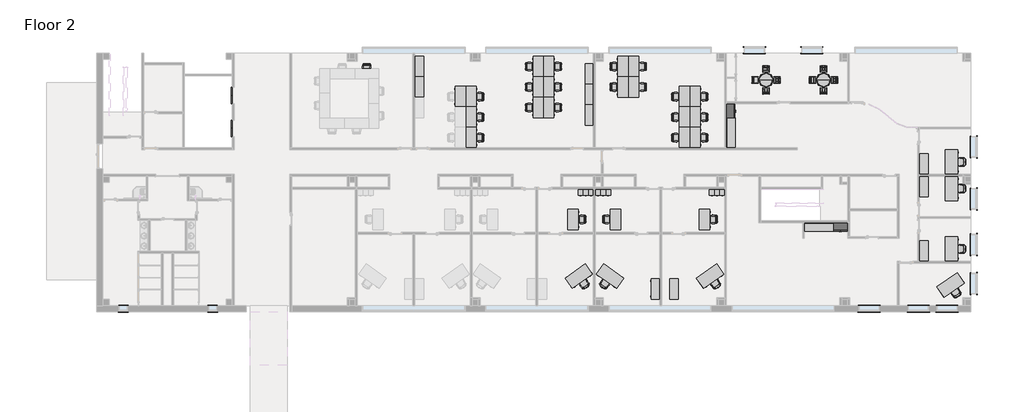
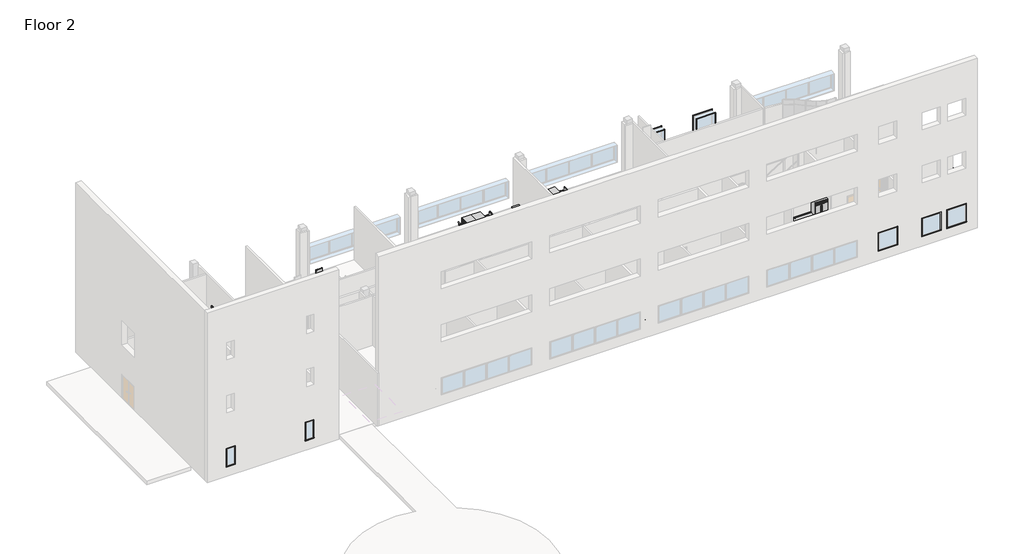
# One storey, part 6 of 6: 95 furniture elements, 26 proxies.
"""IFC4 building model written with IfcOpenShell, lengths in millimetres."""

from ifc_helpers import new_model, si_unit, origin, place, context, project, spatial, transform, mapped, element, save
from components import proxy_ae548678, proxy_0447ab4b, trim_window_exterior_flat_with_sill_05ca63db, trim_window_exterior_flat_with_sill_4912eb0d, trim_window_interior_flat_picture_frame_a1a3bc7c, trim_window_interior_flat_picture_frame_978fd00d, furniture_338da5bd, furniture_552c1472, furniture_48aa8ab9, chair_executive_chair_executive_8d69e98c, chair_executive_chair_executive_a5be4872, chair_stacking_chair_stacking_76f41a28, chair_task_arms_chair_task_arms_fa5a08ef, chair_task_arms_chair_task_arms_3c69ee15, furniture_b725675f, furniture_6bf0da8d, furniture_0f0bb7e9, furniture_a9e97cbc, furniture_f1eb905c, furniture_e30ff25b, furniture_33f25304, furniture_65204735, furniture_77f0a01d

model = new_model("IFC4")

# Units and contexts
model_context = context("Model", 3, world=origin())
ifc_project = project(units=[si_unit("LENGTHUNIT", "METRE", prefix="MILLI")], contexts=[model_context])

# Site, building, storey
site = spatial("IfcSite", under=ifc_project)
building = spatial("IfcBuilding", under=site)
storey = spatial("IfcBuildingStorey", under=building, Name="Floor 2", Elevation=5486.4)

# Proxies
placement = place(None, origin())
proxy_shape = proxy_ae548678(model_context)
element("IfcBuildingElementProxy", 1, Name="Elevator-Center : 72\" x 114\" Hospital min.", ObjectType="Elevator-Center : 72\" x 114\" Hospital min.", at=placement, inside=storey, context=model_context, shape_type="MappedRepresentation", body=[
    mapped(proxy_shape, transform((6707.2192024, 51882.5975333, 5486.4), x_axis=(0.0, 1.0, 0.0), y_axis=(-1.0, 0.0, 0.0), z_axis=(0.0, 0.0, 1.0))),
])
element("IfcBuildingElementProxy", 2, Name="Elevator-Center : 72\" x 114\" Hospital min.", ObjectType="Elevator-Center : 72\" x 114\" Hospital min.", at=placement, inside=storey, context=model_context, shape_type="MappedRepresentation", body=[
    mapped(proxy_shape, transform((6707.2192024, 54320.9975333, 5486.4), x_axis=(0.0, 1.0, 0.0), y_axis=(-1.0, 0.0, 0.0), z_axis=(0.0, 0.0, 1.0))),
])
proxy_2_shape = proxy_0447ab4b(model_context)
element("IfcBuildingElementProxy", 3, Name="Refrigerator-Side-by-Side : 42\" Left Side Freezer", ObjectType="Refrigerator-Side-by-Side : 42\" Left Side Freezer", at=placement, inside=storey, context=model_context, shape_type="MappedRepresentation", body=[
    mapped(proxy_2_shape, transform((51838.2567024, 44868.311889, 5486.4), x_axis=(1.0, 0.0, 0.0), y_axis=(0.0, 1.0, 0.0), z_axis=(0.0, 0.0, 1.0))),
])
element("IfcBuildingElementProxy", 4, Name="Refrigerator-Side-by-Side : 42\" Left Side Freezer", ObjectType="Refrigerator-Side-by-Side : 42\" Left Side Freezer", at=placement, inside=storey, context=model_context, shape_type="MappedRepresentation", body=[
    mapped(proxy_2_shape, transform((43251.4692024, 53086.799389, 5486.4), x_axis=(0.0, 1.0, 0.0), y_axis=(-1.0, 0.0, 0.0), z_axis=(0.0, 0.0, 1.0))),
])
trim_window_exterior_flat_with_sill_shape = trim_window_exterior_flat_with_sill_05ca63db(model_context)
element("IfcBuildingElementProxy", 5, Name="Trim-Window-Exterior-Flat : with Sill", ObjectType="Trim-Window-Exterior-Flat : with Sill", at=placement, inside=storey, context=model_context, shape_type="MappedRepresentation", body=[
    mapped(trim_window_exterior_flat_with_sill_shape, transform((61956.9817024, 46544.711889, 7924.8), x_axis=(0.0, 1.0, 0.0), y_axis=(0.0, 0.0, 1.0), z_axis=(1.0, 0.0, 0.0))),
])
element("IfcBuildingElementProxy", 6, Name="Trim-Window-Exterior-Flat : with Sill", ObjectType="Trim-Window-Exterior-Flat : with Sill", at=placement, inside=storey, context=model_context, shape_type="MappedRepresentation", body=[
    mapped(trim_window_exterior_flat_with_sill_shape, transform((61956.9817024, 43141.111889, 7924.8), x_axis=(0.0, 1.0, 0.0), y_axis=(0.0, 0.0, 1.0), z_axis=(1.0, 0.0, 0.0))),
])
element("IfcBuildingElementProxy", 7, Name="Trim-Window-Exterior-Flat : with Sill", ObjectType="Trim-Window-Exterior-Flat : with Sill", at=placement, inside=storey, context=model_context, shape_type="MappedRepresentation", body=[
    mapped(trim_window_exterior_flat_with_sill_shape, transform((61956.9817024, 40245.511889, 7924.8), x_axis=(0.0, 1.0, 0.0), y_axis=(0.0, 0.0, 1.0), z_axis=(1.0, 0.0, 0.0))),
])
element("IfcBuildingElementProxy", 8, Name="Trim-Window-Exterior-Flat : with Sill", ObjectType="Trim-Window-Exterior-Flat : with Sill", at=placement, inside=storey, context=model_context, shape_type="MappedRepresentation", body=[
    mapped(trim_window_exterior_flat_with_sill_shape, transform((61956.9817024, 50405.511889, 7924.8), x_axis=(0.0, 1.0, 0.0), y_axis=(0.0, 0.0, 1.0), z_axis=(1.0, 0.0, 0.0))),
])
element("IfcBuildingElementProxy", 9, Name="Trim-Window-Exterior-Flat : with Sill", ObjectType="Trim-Window-Exterior-Flat : with Sill", at=placement, inside=storey, context=model_context, shape_type="MappedRepresentation", body=[
    mapped(trim_window_exterior_flat_with_sill_shape, transform((59742.4192024, 38164.299389, 7924.8), x_axis=(1.0, 0.0, 0.0), y_axis=(0.0, 0.0, 1.0), z_axis=(0.0, -1.0, 0.0))),
])
element("IfcBuildingElementProxy", 10, Name="Trim-Window-Exterior-Flat : with Sill", ObjectType="Trim-Window-Exterior-Flat : with Sill", at=placement, inside=storey, context=model_context, shape_type="MappedRepresentation", body=[
    mapped(trim_window_exterior_flat_with_sill_shape, transform((57608.8192024, 38164.299389, 7924.8), x_axis=(1.0, 0.0, 0.0), y_axis=(0.0, 0.0, 1.0), z_axis=(0.0, -1.0, 0.0))),
])
element("IfcBuildingElementProxy", 11, Name="Trim-Window-Exterior-Flat : with Sill", ObjectType="Trim-Window-Exterior-Flat : with Sill", at=placement, inside=storey, context=model_context, shape_type="MappedRepresentation", body=[
    mapped(trim_window_exterior_flat_with_sill_shape, transform((53951.2192024, 38164.299389, 7924.8), x_axis=(1.0, 0.0, 0.0), y_axis=(0.0, 0.0, 1.0), z_axis=(0.0, -1.0, 0.0))),
])
element("IfcBuildingElementProxy", 12, Name="Trim-Window-Exterior-Flat : with Sill", ObjectType="Trim-Window-Exterior-Flat : with Sill", at=placement, inside=storey, context=model_context, shape_type="MappedRepresentation", body=[
    mapped(trim_window_exterior_flat_with_sill_shape, transform((45423.1692024, 57820.724389, 7924.8), x_axis=(-1.0, 0.0, 0.0), y_axis=(0.0, 0.0, 1.0), z_axis=(0.0, 1.0, 0.0))),
])
element("IfcBuildingElementProxy", 13, Name="Trim-Window-Exterior-Flat : with Sill", ObjectType="Trim-Window-Exterior-Flat : with Sill", at=placement, inside=storey, context=model_context, shape_type="MappedRepresentation", body=[
    mapped(trim_window_exterior_flat_with_sill_shape, transform((49690.3692024, 57820.724389, 7924.8), x_axis=(-1.0, 0.0, 0.0), y_axis=(0.0, 0.0, 1.0), z_axis=(0.0, 1.0, 0.0))),
])
trim_window_exterior_flat_with_sill_2_shape = trim_window_exterior_flat_with_sill_4912eb0d(model_context)
element("IfcBuildingElementProxy", 14, Name="Trim-Window-Exterior-Flat : with Sill", ObjectType="Trim-Window-Exterior-Flat : with Sill", at=placement, inside=storey, context=model_context, shape_type="MappedRepresentation", body=[
    mapped(trim_window_exterior_flat_with_sill_2_shape, transform((-1446.1807976, 38164.299389, 7924.8), x_axis=(1.0, 0.0, 0.0), y_axis=(0.0, 0.0, 1.0), z_axis=(0.0, -1.0, 0.0))),
])
element("IfcBuildingElementProxy", 15, Name="Trim-Window-Exterior-Flat : with Sill", ObjectType="Trim-Window-Exterior-Flat : with Sill", at=placement, inside=storey, context=model_context, shape_type="MappedRepresentation", body=[
    mapped(trim_window_exterior_flat_with_sill_2_shape, transform((5189.5692024, 38164.299389, 7924.8), x_axis=(1.0, 0.0, 0.0), y_axis=(0.0, 0.0, 1.0), z_axis=(0.0, -1.0, 0.0))),
])
trim_window_interior_flat_picture_frame_shape = trim_window_interior_flat_picture_frame_a1a3bc7c(model_context)
element("IfcBuildingElementProxy", 16, Name="Trim-Window-Interior-Flat : Picture Frame", ObjectType="Trim-Window-Interior-Flat : Picture Frame", at=placement, inside=storey, context=model_context, shape_type="MappedRepresentation", body=[
    mapped(trim_window_interior_flat_picture_frame_shape, transform((61502.9567024, 46544.711889, 7924.8), x_axis=(0.0, -1.0, 0.0), y_axis=(0.0, 0.0, 1.0), z_axis=(-1.0, 0.0, 0.0))),
])
element("IfcBuildingElementProxy", 17, Name="Trim-Window-Interior-Flat : Picture Frame", ObjectType="Trim-Window-Interior-Flat : Picture Frame", at=placement, inside=storey, context=model_context, shape_type="MappedRepresentation", body=[
    mapped(trim_window_interior_flat_picture_frame_shape, transform((61502.9567024, 43141.111889, 7924.8), x_axis=(0.0, -1.0, 0.0), y_axis=(0.0, 0.0, 1.0), z_axis=(-1.0, 0.0, 0.0))),
])
element("IfcBuildingElementProxy", 18, Name="Trim-Window-Interior-Flat : Picture Frame", ObjectType="Trim-Window-Interior-Flat : Picture Frame", at=placement, inside=storey, context=model_context, shape_type="MappedRepresentation", body=[
    mapped(trim_window_interior_flat_picture_frame_shape, transform((61502.9567024, 40245.511889, 7924.8), x_axis=(0.0, -1.0, 0.0), y_axis=(0.0, 0.0, 1.0), z_axis=(-1.0, 0.0, 0.0))),
])
element("IfcBuildingElementProxy", 19, Name="Trim-Window-Interior-Flat : Picture Frame", ObjectType="Trim-Window-Interior-Flat : Picture Frame", at=placement, inside=storey, context=model_context, shape_type="MappedRepresentation", body=[
    mapped(trim_window_interior_flat_picture_frame_shape, transform((61502.9567024, 50405.511889, 7924.8), x_axis=(0.0, -1.0, 0.0), y_axis=(0.0, 0.0, 1.0), z_axis=(-1.0, 0.0, 0.0))),
])
element("IfcBuildingElementProxy", 20, Name="Trim-Window-Interior-Flat : Picture Frame", ObjectType="Trim-Window-Interior-Flat : Picture Frame", at=placement, inside=storey, context=model_context, shape_type="MappedRepresentation", body=[
    mapped(trim_window_interior_flat_picture_frame_shape, transform((59742.4192024, 38618.324389, 7924.8), x_axis=(-1.0, 0.0, 0.0), y_axis=(0.0, 0.0, 1.0), z_axis=(0.0, 1.0, 0.0))),
])
element("IfcBuildingElementProxy", 21, Name="Trim-Window-Interior-Flat : Picture Frame", ObjectType="Trim-Window-Interior-Flat : Picture Frame", at=placement, inside=storey, context=model_context, shape_type="MappedRepresentation", body=[
    mapped(trim_window_interior_flat_picture_frame_shape, transform((57608.8192024, 38618.324389, 7924.8), x_axis=(-1.0, 0.0, 0.0), y_axis=(0.0, 0.0, 1.0), z_axis=(0.0, 1.0, 0.0))),
])
element("IfcBuildingElementProxy", 22, Name="Trim-Window-Interior-Flat : Picture Frame", ObjectType="Trim-Window-Interior-Flat : Picture Frame", at=placement, inside=storey, context=model_context, shape_type="MappedRepresentation", body=[
    mapped(trim_window_interior_flat_picture_frame_shape, transform((53951.2192024, 38618.324389, 7924.8), x_axis=(-1.0, 0.0, 0.0), y_axis=(0.0, 0.0, 1.0), z_axis=(0.0, 1.0, 0.0))),
])
element("IfcBuildingElementProxy", 23, Name="Trim-Window-Interior-Flat : Picture Frame", ObjectType="Trim-Window-Interior-Flat : Picture Frame", at=placement, inside=storey, context=model_context, shape_type="MappedRepresentation", body=[
    mapped(trim_window_interior_flat_picture_frame_shape, transform((45423.1692024, 57366.699389, 7924.8), x_axis=(1.0, 0.0, 0.0), y_axis=(0.0, 0.0, 1.0), z_axis=(0.0, -1.0, 0.0))),
])
element("IfcBuildingElementProxy", 24, Name="Trim-Window-Interior-Flat : Picture Frame", ObjectType="Trim-Window-Interior-Flat : Picture Frame", at=placement, inside=storey, context=model_context, shape_type="MappedRepresentation", body=[
    mapped(trim_window_interior_flat_picture_frame_shape, transform((49690.3692024, 57366.699389, 7924.8), x_axis=(1.0, 0.0, 0.0), y_axis=(0.0, 0.0, 1.0), z_axis=(0.0, -1.0, 0.0))),
])
trim_window_interior_flat_picture_frame_2_shape = trim_window_interior_flat_picture_frame_978fd00d(model_context)
element("IfcBuildingElementProxy", 25, Name="Trim-Window-Interior-Flat : Picture Frame", ObjectType="Trim-Window-Interior-Flat : Picture Frame", at=placement, inside=storey, context=model_context, shape_type="MappedRepresentation", body=[
    mapped(trim_window_interior_flat_picture_frame_2_shape, transform((-1446.1807976, 38618.324389, 7924.8), x_axis=(-1.0, 0.0, 0.0), y_axis=(0.0, 0.0, 1.0), z_axis=(0.0, 1.0, 0.0))),
])
element("IfcBuildingElementProxy", 26, Name="Trim-Window-Interior-Flat : Picture Frame", ObjectType="Trim-Window-Interior-Flat : Picture Frame", at=placement, inside=storey, context=model_context, shape_type="MappedRepresentation", body=[
    mapped(trim_window_interior_flat_picture_frame_2_shape, transform((5189.5692024, 38618.324389, 7924.8), x_axis=(-1.0, 0.0, 0.0), y_axis=(0.0, 0.0, 1.0), z_axis=(0.0, 1.0, 0.0))),
])

# Furniture
furniture_shape = furniture_338da5bd(model_context)
element("IfcFurniture", 27, ObjectType="Base Cabinet-Double Door & 2 Drawer : 30\"", at=placement, inside=storey, context=model_context, shape_type="MappedRepresentation", body=[
    mapped(furniture_shape, transform((49498.5939974, 44766.711889, 5486.4), x_axis=(1.0, 0.0, 0.0), y_axis=(0.0, 1.0, 0.0), z_axis=(0.0, 0.0, 1.0))),
])
element("IfcFurniture", 28, ObjectType="Base Cabinet-Double Door & 2 Drawer : 30\"", at=placement, inside=storey, context=model_context, shape_type="MappedRepresentation", body=[
    mapped(furniture_shape, transform((50260.5939974, 44766.711889, 5486.4), x_axis=(1.0, 0.0, 0.0), y_axis=(0.0, 1.0, 0.0), z_axis=(0.0, 0.0, 1.0))),
])
element("IfcFurniture", 29, ObjectType="Base Cabinet-Double Door & 2 Drawer : 30\"", at=placement, inside=storey, context=model_context, shape_type="MappedRepresentation", body=[
    mapped(furniture_shape, transform((43353.0692024, 50691.5741841, 5486.4), x_axis=(0.0, 1.0, 0.0), y_axis=(-1.0, 0.0, 0.0), z_axis=(0.0, 0.0, 1.0))),
])
element("IfcFurniture", 30, ObjectType="Base Cabinet-Double Door & 2 Drawer : 30\"", at=placement, inside=storey, context=model_context, shape_type="MappedRepresentation", body=[
    mapped(furniture_shape, transform((43353.0692024, 51453.5741841, 5486.4), x_axis=(0.0, 1.0, 0.0), y_axis=(-1.0, 0.0, 0.0), z_axis=(0.0, 0.0, 1.0))),
])
furniture_2_shape = furniture_552c1472(model_context)
element("IfcFurniture", 31, ObjectType="Cabinet-File 3 Drawer : 15\" x 18\"", at=placement, inside=storey, context=model_context, shape_type="MappedRepresentation", body=[
    mapped(furniture_2_shape, transform((33930.5656494, 47175.7961891, 5486.4), x_axis=(1.0, 0.0, 0.0), y_axis=(0.0, 1.0, 0.0), z_axis=(0.0, 0.0, 1.0))),
])
element("IfcFurniture", 32, ObjectType="Cabinet-File 3 Drawer : 15\" x 18\"", at=placement, inside=storey, context=model_context, shape_type="MappedRepresentation", body=[
    mapped(furniture_2_shape, transform((34311.5656494, 47175.7961891, 5486.4), x_axis=(1.0, 0.0, 0.0), y_axis=(0.0, 1.0, 0.0), z_axis=(0.0, 0.0, 1.0))),
])
element("IfcFurniture", 33, ObjectType="Cabinet-File 3 Drawer : 15\" x 18\"", at=placement, inside=storey, context=model_context, shape_type="MappedRepresentation", body=[
    mapped(furniture_2_shape, transform((34692.5656494, 47175.7961891, 5486.4), x_axis=(1.0, 0.0, 0.0), y_axis=(0.0, 1.0, 0.0), z_axis=(0.0, 0.0, 1.0))),
])
furniture_3_shape = furniture_48aa8ab9(model_context)
element("IfcFurniture", 34, ObjectType="Cabinet-File 3 Drawer : 15\" x 18\"", at=placement, inside=storey, context=model_context, shape_type="MappedRepresentation", body=[
    mapped(furniture_3_shape, transform((33154.0727553, 47175.7961891, 5486.4), x_axis=(-1.0, 0.0, 0.0), y_axis=(0.0, -1.0, 0.0), z_axis=(0.0, 0.0, 1.0))),
])
element("IfcFurniture", 35, ObjectType="Cabinet-File 3 Drawer : 15\" x 18\"", at=placement, inside=storey, context=model_context, shape_type="MappedRepresentation", body=[
    mapped(furniture_3_shape, transform((32773.0727553, 47175.7961891, 5486.4), x_axis=(-1.0, 0.0, 0.0), y_axis=(0.0, -1.0, 0.0), z_axis=(0.0, 0.0, 1.0))),
])
element("IfcFurniture", 36, ObjectType="Cabinet-File 3 Drawer : 15\" x 18\"", at=placement, inside=storey, context=model_context, shape_type="MappedRepresentation", body=[
    mapped(furniture_3_shape, transform((32392.0727553, 47175.7961891, 5486.4), x_axis=(-1.0, 0.0, 0.0), y_axis=(0.0, -1.0, 0.0), z_axis=(0.0, 0.0, 1.0))),
])
element("IfcFurniture", 37, ObjectType="Cabinet-File 3 Drawer : 15\" x 18\"", at=placement, inside=storey, context=model_context, shape_type="MappedRepresentation", body=[
    mapped(furniture_3_shape, transform((42910.8477553, 47175.7961891, 5486.4), x_axis=(-1.0, 0.0, 0.0), y_axis=(0.0, -1.0, 0.0), z_axis=(0.0, 0.0, 1.0))),
])
element("IfcFurniture", 38, ObjectType="Cabinet-File 3 Drawer : 15\" x 18\"", at=placement, inside=storey, context=model_context, shape_type="MappedRepresentation", body=[
    mapped(furniture_3_shape, transform((42529.8477553, 47175.7961891, 5486.4), x_axis=(-1.0, 0.0, 0.0), y_axis=(0.0, -1.0, 0.0), z_axis=(0.0, 0.0, 1.0))),
])
element("IfcFurniture", 39, ObjectType="Cabinet-File 3 Drawer : 15\" x 18\"", at=placement, inside=storey, context=model_context, shape_type="MappedRepresentation", body=[
    mapped(furniture_3_shape, transform((42148.8477553, 47175.7961891, 5486.4), x_axis=(-1.0, 0.0, 0.0), y_axis=(0.0, -1.0, 0.0), z_axis=(0.0, 0.0, 1.0))),
])
chair_executive_chair_executive_shape = chair_executive_chair_executive_8d69e98c(model_context)
element("IfcFurniture", 40, ObjectType="Chair-Executive : Chair-Executive", at=placement, inside=storey, context=model_context, shape_type="MappedRepresentation", body=[
    mapped(chair_executive_chair_executive_shape, transform((34189.995015, 40313.6122918, 5486.4), x_axis=(0.819152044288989, -0.57357643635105, 0.0), y_axis=(0.57357643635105, 0.819152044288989, 0.0), z_axis=(0.0, 0.0, 1.0))),
])
element("IfcFurniture", 41, ObjectType="Chair-Executive : Chair-Executive", at=placement, inside=storey, context=model_context, shape_type="MappedRepresentation", body=[
    mapped(chair_executive_chair_executive_shape, transform((60783.2356072, 47167.3085693, 5486.4), x_axis=(0.0, 1.0, 0.0), y_axis=(-1.0, 0.0, 0.0), z_axis=(0.0, 0.0, 1.0))),
])
chair_executive_chair_executive_2_shape = chair_executive_chair_executive_a5be4872(model_context)
element("IfcFurniture", 42, ObjectType="Chair-Executive : Chair-Executive", at=placement, inside=storey, context=model_context, shape_type="MappedRepresentation", body=[
    mapped(chair_executive_chair_executive_2_shape, transform((32894.6433897, 40313.6122918, 5486.4), x_axis=(-0.819152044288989, -0.57357643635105, 0.0), y_axis=(0.57357643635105, -0.819152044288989, 0.0), z_axis=(0.0, 0.0, 1.0))),
])
element("IfcFurniture", 43, ObjectType="Chair-Executive : Chair-Executive", at=placement, inside=storey, context=model_context, shape_type="MappedRepresentation", body=[
    mapped(chair_executive_chair_executive_2_shape, transform((42651.4183897, 40313.6122918, 5486.4), x_axis=(-0.819152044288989, -0.57357643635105, 0.0), y_axis=(0.57357643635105, -0.819152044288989, 0.0), z_axis=(0.0, 0.0, 1.0))),
])
element("IfcFurniture", 44, ObjectType="Chair-Executive : Chair-Executive", at=placement, inside=storey, context=model_context, shape_type="MappedRepresentation", body=[
    mapped(chair_executive_chair_executive_2_shape, transform((60510.0435605, 39658.0167973, 5486.4), x_axis=(-0.819152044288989, -0.57357643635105, 0.0), y_axis=(0.57357643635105, -0.819152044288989, 0.0), z_axis=(0.0, 0.0, 1.0))),
])
element("IfcFurniture", 45, ObjectType="Chair-Executive : Chair-Executive", at=placement, inside=storey, context=model_context, shape_type="MappedRepresentation", body=[
    mapped(chair_executive_chair_executive_2_shape, transform((60783.2356072, 42969.3652087, 5486.4), x_axis=(0.0, -1.0, 0.0), y_axis=(1.0, 0.0, 0.0), z_axis=(0.0, 0.0, 1.0))),
])
element("IfcFurniture", 46, ObjectType="Chair-Executive : Chair-Executive", at=placement, inside=storey, context=model_context, shape_type="MappedRepresentation", body=[
    mapped(chair_executive_chair_executive_2_shape, transform((60783.2356072, 49427.3152087, 5486.4), x_axis=(0.0, -1.0, 0.0), y_axis=(1.0, 0.0, 0.0), z_axis=(0.0, 0.0, 1.0))),
])
chair_stacking_chair_stacking_shape = chair_stacking_chair_stacking_76f41a28(model_context)
element("IfcFurniture", 47, ObjectType="Chair-Stacking : Chair-Stacking", at=placement, inside=storey, context=model_context, shape_type="MappedRepresentation", body=[
    mapped(chair_stacking_chair_stacking_shape, transform((50739.3683827, 54457.5746587, 5486.4), x_axis=(1.0, 0.0, 0.0), y_axis=(0.0, 1.0, 0.0), z_axis=(0.0, 0.0, 1.0))),
])
element("IfcFurniture", 48, ObjectType="Chair-Stacking : Chair-Stacking", at=placement, inside=storey, context=model_context, shape_type="MappedRepresentation", body=[
    mapped(chair_stacking_chair_stacking_shape, transform((51482.0706259, 55558.3752626, 5486.4), x_axis=(0.0, 1.0, 0.0), y_axis=(-1.0, 0.0, 0.0), z_axis=(0.0, 0.0, 1.0))),
])
element("IfcFurniture", 49, ObjectType="Chair-Stacking : Chair-Stacking", at=placement, inside=storey, context=model_context, shape_type="MappedRepresentation", body=[
    mapped(chair_stacking_chair_stacking_shape, transform((50381.270022, 56301.0775058, 5486.4), x_axis=(-1.0, 0.0, 0.0), y_axis=(0.0, -1.0, 0.0), z_axis=(0.0, 0.0, 1.0))),
])
element("IfcFurniture", 50, ObjectType="Chair-Stacking : Chair-Stacking", at=placement, inside=storey, context=model_context, shape_type="MappedRepresentation", body=[
    mapped(chair_stacking_chair_stacking_shape, transform((49638.5677788, 55200.276902, 5486.4), x_axis=(0.0, -1.0, 0.0), y_axis=(1.0, 0.0, 0.0), z_axis=(0.0, 0.0, 1.0))),
])
element("IfcFurniture", 51, ObjectType="Chair-Stacking : Chair-Stacking", at=placement, inside=storey, context=model_context, shape_type="MappedRepresentation", body=[
    mapped(chair_stacking_chair_stacking_shape, transform((46472.1683827, 54457.5746587, 5486.4), x_axis=(1.0, 0.0, 0.0), y_axis=(0.0, 1.0, 0.0), z_axis=(0.0, 0.0, 1.0))),
])
element("IfcFurniture", 52, ObjectType="Chair-Stacking : Chair-Stacking", at=placement, inside=storey, context=model_context, shape_type="MappedRepresentation", body=[
    mapped(chair_stacking_chair_stacking_shape, transform((47214.8706259, 55558.3752626, 5486.4), x_axis=(0.0, 1.0, 0.0), y_axis=(-1.0, 0.0, 0.0), z_axis=(0.0, 0.0, 1.0))),
])
element("IfcFurniture", 53, ObjectType="Chair-Stacking : Chair-Stacking", at=placement, inside=storey, context=model_context, shape_type="MappedRepresentation", body=[
    mapped(chair_stacking_chair_stacking_shape, transform((46114.070022, 56301.0775058, 5486.4), x_axis=(-1.0, 0.0, 0.0), y_axis=(0.0, -1.0, 0.0), z_axis=(0.0, 0.0, 1.0))),
])
element("IfcFurniture", 54, ObjectType="Chair-Stacking : Chair-Stacking", at=placement, inside=storey, context=model_context, shape_type="MappedRepresentation", body=[
    mapped(chair_stacking_chair_stacking_shape, transform((45371.3677788, 55200.276902, 5486.4), x_axis=(0.0, -1.0, 0.0), y_axis=(1.0, 0.0, 0.0), z_axis=(0.0, 0.0, 1.0))),
])
chair_task_arms_chair_task_arms_shape = chair_task_arms_chair_task_arms_fa5a08ef(model_context)
element("IfcFurniture", 55, ObjectType="Chair-Task Arms : Chair-Task Arms", at=placement, inside=storey, context=model_context, shape_type="MappedRepresentation", body=[
    mapped(chair_task_arms_chair_task_arms_shape, transform((34425.0733007, 45161.7027087, 5486.4), x_axis=(0.0, -1.0, 0.0), y_axis=(1.0, 0.0, 0.0), z_axis=(0.0, 0.0, 1.0))),
])
element("IfcFurniture", 56, ObjectType="Chair-Task Arms : Chair-Task Arms", at=placement, inside=storey, context=model_context, shape_type="MappedRepresentation", body=[
    mapped(chair_task_arms_chair_task_arms_shape, transform((16765.9004892, 56317.2577906, 5486.4), x_axis=(-1.0, 0.0, 0.0), y_axis=(0.0, -1.0, 0.0), z_axis=(0.0, 0.0, 1.0))),
])
element("IfcFurniture", 57, ObjectType="Chair-Task Arms : Chair-Task Arms", at=placement, inside=storey, context=model_context, shape_type="MappedRepresentation", body=[
    mapped(chair_task_arms_chair_task_arms_shape, transform((41712.8009489, 50950.3210693, 5486.4), x_axis=(0.0, 1.0, 0.0), y_axis=(-1.0, 0.0, 0.0), z_axis=(0.0, 0.0, 1.0))),
])
element("IfcFurniture", 58, ObjectType="Chair-Task Arms : Chair-Task Arms", at=placement, inside=storey, context=model_context, shape_type="MappedRepresentation", body=[
    mapped(chair_task_arms_chair_task_arms_shape, transform((37134.7797162, 56233.5210693, 5486.4), x_axis=(0.0, 1.0, 0.0), y_axis=(-1.0, 0.0, 0.0), z_axis=(0.0, 0.0, 1.0))),
])
element("IfcFurniture", 59, ObjectType="Chair-Task Arms : Chair-Task Arms", at=placement, inside=storey, context=model_context, shape_type="MappedRepresentation", body=[
    mapped(chair_task_arms_chair_task_arms_shape, transform((37134.7797162, 54709.5210693, 5486.4), x_axis=(0.0, 1.0, 0.0), y_axis=(-1.0, 0.0, 0.0), z_axis=(0.0, 0.0, 1.0))),
])
element("IfcFurniture", 60, ObjectType="Chair-Task Arms : Chair-Task Arms", at=placement, inside=storey, context=model_context, shape_type="MappedRepresentation", body=[
    mapped(chair_task_arms_chair_task_arms_shape, transform((41712.8009489, 52474.3210693, 5486.4), x_axis=(0.0, 1.0, 0.0), y_axis=(-1.0, 0.0, 0.0), z_axis=(0.0, 0.0, 1.0))),
])
element("IfcFurniture", 61, ObjectType="Chair-Task Arms : Chair-Task Arms", at=placement, inside=storey, context=model_context, shape_type="MappedRepresentation", body=[
    mapped(chair_task_arms_chair_task_arms_shape, transform((41712.8009489, 53998.3210693, 5486.4), x_axis=(0.0, 1.0, 0.0), y_axis=(-1.0, 0.0, 0.0), z_axis=(0.0, 0.0, 1.0))),
])
element("IfcFurniture", 62, ObjectType="Chair-Task Arms : Chair-Task Arms", at=placement, inside=storey, context=model_context, shape_type="MappedRepresentation", body=[
    mapped(chair_task_arms_chair_task_arms_shape, transform((25071.315104, 50950.3210693, 5486.4), x_axis=(0.0, 1.0, 0.0), y_axis=(-1.0, 0.0, 0.0), z_axis=(0.0, 0.0, 1.0))),
])
element("IfcFurniture", 63, ObjectType="Chair-Task Arms : Chair-Task Arms", at=placement, inside=storey, context=model_context, shape_type="MappedRepresentation", body=[
    mapped(chair_task_arms_chair_task_arms_shape, transform((25071.315104, 52474.3210693, 5486.4), x_axis=(0.0, 1.0, 0.0), y_axis=(-1.0, 0.0, 0.0), z_axis=(0.0, 0.0, 1.0))),
])
element("IfcFurniture", 64, ObjectType="Chair-Task Arms : Chair-Task Arms", at=placement, inside=storey, context=model_context, shape_type="MappedRepresentation", body=[
    mapped(chair_task_arms_chair_task_arms_shape, transform((25071.315104, 53998.3210693, 5486.4), x_axis=(0.0, 1.0, 0.0), y_axis=(-1.0, 0.0, 0.0), z_axis=(0.0, 0.0, 1.0))),
])
element("IfcFurniture", 65, ObjectType="Chair-Task Arms : Chair-Task Arms", at=placement, inside=storey, context=model_context, shape_type="MappedRepresentation", body=[
    mapped(chair_task_arms_chair_task_arms_shape, transform((30844.5832347, 53185.5210693, 5486.4), x_axis=(0.0, 1.0, 0.0), y_axis=(-1.0, 0.0, 0.0), z_axis=(0.0, 0.0, 1.0))),
])
element("IfcFurniture", 66, ObjectType="Chair-Task Arms : Chair-Task Arms", at=placement, inside=storey, context=model_context, shape_type="MappedRepresentation", body=[
    mapped(chair_task_arms_chair_task_arms_shape, transform((30844.5832347, 54709.5210693, 5486.4), x_axis=(0.0, 1.0, 0.0), y_axis=(-1.0, 0.0, 0.0), z_axis=(0.0, 0.0, 1.0))),
])
element("IfcFurniture", 67, ObjectType="Chair-Task Arms : Chair-Task Arms", at=placement, inside=storey, context=model_context, shape_type="MappedRepresentation", body=[
    mapped(chair_task_arms_chair_task_arms_shape, transform((30844.5832347, 56233.5210693, 5486.4), x_axis=(0.0, 1.0, 0.0), y_axis=(-1.0, 0.0, 0.0), z_axis=(0.0, 0.0, 1.0))),
])
chair_task_arms_chair_task_arms_2_shape = chair_task_arms_chair_task_arms_3c69ee15(model_context)
element("IfcFurniture", 68, ObjectType="Chair-Task Arms : Chair-Task Arms", at=placement, inside=storey, context=model_context, shape_type="MappedRepresentation", body=[
    mapped(chair_task_arms_chair_task_arms_2_shape, transform((32659.565104, 45161.7027087, 5486.4), x_axis=(0.0, -1.0, 0.0), y_axis=(1.0, 0.0, 0.0), z_axis=(0.0, 0.0, 1.0))),
])
element("IfcFurniture", 69, ObjectType="Chair-Task Arms : Chair-Task Arms", at=placement, inside=storey, context=model_context, shape_type="MappedRepresentation", body=[
    mapped(chair_task_arms_chair_task_arms_2_shape, transform((42416.340104, 45161.7027087, 5486.4), x_axis=(0.0, -1.0, 0.0), y_axis=(1.0, 0.0, 0.0), z_axis=(0.0, 0.0, 1.0))),
])
element("IfcFurniture", 70, ObjectType="Chair-Task Arms : Chair-Task Arms", at=placement, inside=storey, context=model_context, shape_type="MappedRepresentation", body=[
    mapped(chair_task_arms_chair_task_arms_2_shape, transform((39541.3091456, 50950.3210693, 5486.4), x_axis=(0.0, 1.0, 0.0), y_axis=(-1.0, 0.0, 0.0), z_axis=(0.0, 0.0, 1.0))),
])
element("IfcFurniture", 71, ObjectType="Chair-Task Arms : Chair-Task Arms", at=placement, inside=storey, context=model_context, shape_type="MappedRepresentation", body=[
    mapped(chair_task_arms_chair_task_arms_2_shape, transform((34963.2879129, 56233.5210693, 5486.4), x_axis=(0.0, 1.0, 0.0), y_axis=(-1.0, 0.0, 0.0), z_axis=(0.0, 0.0, 1.0))),
])
element("IfcFurniture", 72, ObjectType="Chair-Task Arms : Chair-Task Arms", at=placement, inside=storey, context=model_context, shape_type="MappedRepresentation", body=[
    mapped(chair_task_arms_chair_task_arms_2_shape, transform((34963.2879129, 54709.5210693, 5486.4), x_axis=(0.0, 1.0, 0.0), y_axis=(-1.0, 0.0, 0.0), z_axis=(0.0, 0.0, 1.0))),
])
element("IfcFurniture", 73, ObjectType="Chair-Task Arms : Chair-Task Arms", at=placement, inside=storey, context=model_context, shape_type="MappedRepresentation", body=[
    mapped(chair_task_arms_chair_task_arms_2_shape, transform((39541.3091456, 52474.3210693, 5486.4), x_axis=(0.0, 1.0, 0.0), y_axis=(-1.0, 0.0, 0.0), z_axis=(0.0, 0.0, 1.0))),
])
element("IfcFurniture", 74, ObjectType="Chair-Task Arms : Chair-Task Arms", at=placement, inside=storey, context=model_context, shape_type="MappedRepresentation", body=[
    mapped(chair_task_arms_chair_task_arms_2_shape, transform((39541.3091456, 53998.3210693, 5486.4), x_axis=(0.0, 1.0, 0.0), y_axis=(-1.0, 0.0, 0.0), z_axis=(0.0, 0.0, 1.0))),
])
element("IfcFurniture", 75, ObjectType="Chair-Task Arms : Chair-Task Arms", at=placement, inside=storey, context=model_context, shape_type="MappedRepresentation", body=[
    mapped(chair_task_arms_chair_task_arms_2_shape, transform((28673.0914314, 53185.5210693, 5486.4), x_axis=(0.0, 1.0, 0.0), y_axis=(-1.0, 0.0, 0.0), z_axis=(0.0, 0.0, 1.0))),
])
element("IfcFurniture", 76, ObjectType="Chair-Task Arms : Chair-Task Arms", at=placement, inside=storey, context=model_context, shape_type="MappedRepresentation", body=[
    mapped(chair_task_arms_chair_task_arms_2_shape, transform((28673.0914314, 54709.5210693, 5486.4), x_axis=(0.0, 1.0, 0.0), y_axis=(-1.0, 0.0, 0.0), z_axis=(0.0, 0.0, 1.0))),
])
element("IfcFurniture", 77, ObjectType="Chair-Task Arms : Chair-Task Arms", at=placement, inside=storey, context=model_context, shape_type="MappedRepresentation", body=[
    mapped(chair_task_arms_chair_task_arms_2_shape, transform((28673.0914314, 56233.5210693, 5486.4), x_axis=(0.0, 1.0, 0.0), y_axis=(-1.0, 0.0, 0.0), z_axis=(0.0, 0.0, 1.0))),
])
furniture_4_shape = furniture_b725675f(model_context)
element("IfcFurniture", 78, ObjectType="Counter Top : 24\" Depth", at=placement, inside=storey, context=model_context, shape_type="MappedRepresentation", body=[
    mapped(furniture_4_shape, transform((50336.7939974, 44766.711889, 5486.4), x_axis=(1.0, 0.0, 0.0), y_axis=(0.0, 1.0, 0.0), z_axis=(0.0, 0.0, 1.0))),
])
furniture_5_shape = furniture_6bf0da8d(model_context)
element("IfcFurniture", 79, ObjectType="Counter Top : 24\" Depth", at=placement, inside=storey, context=model_context, shape_type="MappedRepresentation", body=[
    mapped(furniture_5_shape, transform((43353.0692024, 51529.7741841, 5486.4), x_axis=(0.0, 1.0, 0.0), y_axis=(-1.0, 0.0, 0.0), z_axis=(0.0, 0.0, 1.0))),
])
furniture_6_shape = furniture_0f0bb7e9(model_context)
element("IfcFurniture", 80, ObjectType="Credenza : 60\" x 24\"", at=placement, inside=storey, context=model_context, shape_type="MappedRepresentation", body=[
    mapped(furniture_6_shape, transform((39442.8745302, 39804.9676267, 5486.4), x_axis=(0.0, 1.0, 0.0), y_axis=(-1.0, 0.0, 0.0), z_axis=(0.0, 0.0, 1.0))),
])
element("IfcFurniture", 81, ObjectType="Credenza : 60\" x 24\"", at=placement, inside=storey, context=model_context, shape_type="MappedRepresentation", body=[
    mapped(furniture_6_shape, transform((58024.5620302, 42616.4301267, 5486.4), x_axis=(0.0, 1.0, 0.0), y_axis=(-1.0, 0.0, 0.0), z_axis=(0.0, 0.0, 1.0))),
])
element("IfcFurniture", 82, ObjectType="Credenza : 60\" x 24\"", at=placement, inside=storey, context=model_context, shape_type="MappedRepresentation", body=[
    mapped(furniture_6_shape, transform((58024.5620302, 49074.3801267, 5486.4), x_axis=(0.0, 1.0, 0.0), y_axis=(-1.0, 0.0, 0.0), z_axis=(0.0, 0.0, 1.0))),
])
furniture_7_shape = furniture_a9e97cbc(model_context)
element("IfcFurniture", 83, ObjectType="Credenza : 60\" x 24\"", at=placement, inside=storey, context=model_context, shape_type="MappedRepresentation", body=[
    mapped(furniture_7_shape, transform((38074.8138745, 39804.9676267, 5486.4), x_axis=(0.0, 1.0, 0.0), y_axis=(-1.0, 0.0, 0.0), z_axis=(0.0, 0.0, 1.0))),
])
element("IfcFurniture", 84, ObjectType="Credenza : 60\" x 24\"", at=placement, inside=storey, context=model_context, shape_type="MappedRepresentation", body=[
    mapped(furniture_7_shape, transform((58024.5620302, 47520.2436513, 5486.4), x_axis=(0.0, -1.0, 0.0), y_axis=(1.0, 0.0, 0.0), z_axis=(0.0, 0.0, 1.0))),
])
element("IfcFurniture", 85, ObjectType="Credenza : 60\" x 24\"", at=placement, inside=storey, context=model_context, shape_type="MappedRepresentation", body=[
    mapped(furniture_7_shape, transform((33201.1888745, 52709.7551267, 5486.4), x_axis=(0.0, 1.0, 0.0), y_axis=(-1.0, 0.0, 0.0), z_axis=(0.0, 0.0, 1.0))),
])
element("IfcFurniture", 86, ObjectType="Credenza : 60\" x 24\"", at=placement, inside=storey, context=model_context, shape_type="MappedRepresentation", body=[
    mapped(furniture_7_shape, transform((33201.1888745, 54233.7551267, 5486.4), x_axis=(0.0, 1.0, 0.0), y_axis=(-1.0, 0.0, 0.0), z_axis=(0.0, 0.0, 1.0))),
])
element("IfcFurniture", 87, ObjectType="Credenza : 60\" x 24\"", at=placement, inside=storey, context=model_context, shape_type="MappedRepresentation", body=[
    mapped(furniture_7_shape, transform((33201.1888745, 55757.7551267, 5486.4), x_axis=(0.0, 1.0, 0.0), y_axis=(-1.0, 0.0, 0.0), z_axis=(0.0, 0.0, 1.0))),
])
element("IfcFurniture", 88, ObjectType="Credenza : 60\" x 24\"", at=placement, inside=storey, context=model_context, shape_type="MappedRepresentation", body=[
    mapped(furniture_7_shape, transform((20542.0995302, 56434.0561513, 5486.4), x_axis=(0.0, -1.0, 0.0), y_axis=(1.0, 0.0, 0.0), z_axis=(0.0, 0.0, 1.0))),
])
element("IfcFurniture", 89, ObjectType="Credenza : 60\" x 24\"", at=placement, inside=storey, context=model_context, shape_type="MappedRepresentation", body=[
    mapped(furniture_7_shape, transform((20542.0995302, 54910.0561513, 5486.4), x_axis=(0.0, -1.0, 0.0), y_axis=(1.0, 0.0, 0.0), z_axis=(0.0, 0.0, 1.0))),
])
furniture_8_shape = furniture_f1eb905c(model_context)
element("IfcFurniture", 90, ObjectType="Desk : 60\" x 30\"", at=placement, inside=storey, context=model_context, shape_type="MappedRepresentation", body=[
    mapped(furniture_8_shape, transform((34748.8192024, 45782.711889, 5486.4), x_axis=(0.0, -1.0, 0.0), y_axis=(1.0, 0.0, 0.0), z_axis=(0.0, 0.0, 1.0))),
])
element("IfcFurniture", 91, ObjectType="Desk : 60\" x 30\"", at=placement, inside=storey, context=model_context, shape_type="MappedRepresentation", body=[
    mapped(furniture_8_shape, transform((41389.0550473, 50329.311889, 5486.4), x_axis=(0.0, 1.0, 0.0), y_axis=(-1.0, 0.0, 0.0), z_axis=(0.0, 0.0, 1.0))),
])
element("IfcFurniture", 92, ObjectType="Desk : 60\" x 30\"", at=placement, inside=storey, context=model_context, shape_type="MappedRepresentation", body=[
    mapped(furniture_8_shape, transform((36811.0338145, 55612.511889, 5486.4), x_axis=(0.0, 1.0, 0.0), y_axis=(-1.0, 0.0, 0.0), z_axis=(0.0, 0.0, 1.0))),
])
element("IfcFurniture", 93, ObjectType="Desk : 60\" x 30\"", at=placement, inside=storey, context=model_context, shape_type="MappedRepresentation", body=[
    mapped(furniture_8_shape, transform((36811.0338145, 54088.511889, 5486.4), x_axis=(0.0, 1.0, 0.0), y_axis=(-1.0, 0.0, 0.0), z_axis=(0.0, 0.0, 1.0))),
])
element("IfcFurniture", 94, ObjectType="Desk : 60\" x 30\"", at=placement, inside=storey, context=model_context, shape_type="MappedRepresentation", body=[
    mapped(furniture_8_shape, transform((41389.0550473, 51853.311889, 5486.4), x_axis=(0.0, 1.0, 0.0), y_axis=(-1.0, 0.0, 0.0), z_axis=(0.0, 0.0, 1.0))),
])
element("IfcFurniture", 95, ObjectType="Desk : 60\" x 30\"", at=placement, inside=storey, context=model_context, shape_type="MappedRepresentation", body=[
    mapped(furniture_8_shape, transform((41389.0550473, 53377.311889, 5486.4), x_axis=(0.0, 1.0, 0.0), y_axis=(-1.0, 0.0, 0.0), z_axis=(0.0, 0.0, 1.0))),
])
element("IfcFurniture", 96, ObjectType="Desk : 60\" x 30\"", at=placement, inside=storey, context=model_context, shape_type="MappedRepresentation", body=[
    mapped(furniture_8_shape, transform((24747.5692024, 50329.311889, 5486.4), x_axis=(0.0, 1.0, 0.0), y_axis=(-1.0, 0.0, 0.0), z_axis=(0.0, 0.0, 1.0))),
])
element("IfcFurniture", 97, ObjectType="Desk : 60\" x 30\"", at=placement, inside=storey, context=model_context, shape_type="MappedRepresentation", body=[
    mapped(furniture_8_shape, transform((24747.5692024, 51853.311889, 5486.4), x_axis=(0.0, 1.0, 0.0), y_axis=(-1.0, 0.0, 0.0), z_axis=(0.0, 0.0, 1.0))),
])
element("IfcFurniture", 98, ObjectType="Desk : 60\" x 30\"", at=placement, inside=storey, context=model_context, shape_type="MappedRepresentation", body=[
    mapped(furniture_8_shape, transform((24747.5692024, 53377.311889, 5486.4), x_axis=(0.0, 1.0, 0.0), y_axis=(-1.0, 0.0, 0.0), z_axis=(0.0, 0.0, 1.0))),
])
element("IfcFurniture", 99, ObjectType="Desk : 60\" x 30\"", at=placement, inside=storey, context=model_context, shape_type="MappedRepresentation", body=[
    mapped(furniture_8_shape, transform((30520.8373331, 52564.511889, 5486.4), x_axis=(0.0, 1.0, 0.0), y_axis=(-1.0, 0.0, 0.0), z_axis=(0.0, 0.0, 1.0))),
])
element("IfcFurniture", 100, ObjectType="Desk : 60\" x 30\"", at=placement, inside=storey, context=model_context, shape_type="MappedRepresentation", body=[
    mapped(furniture_8_shape, transform((30520.8373331, 54088.511889, 5486.4), x_axis=(0.0, 1.0, 0.0), y_axis=(-1.0, 0.0, 0.0), z_axis=(0.0, 0.0, 1.0))),
])
element("IfcFurniture", 101, ObjectType="Desk : 60\" x 30\"", at=placement, inside=storey, context=model_context, shape_type="MappedRepresentation", body=[
    mapped(furniture_8_shape, transform((30520.8373331, 55612.511889, 5486.4), x_axis=(0.0, 1.0, 0.0), y_axis=(-1.0, 0.0, 0.0), z_axis=(0.0, 0.0, 1.0))),
])
furniture_9_shape = furniture_e30ff25b(model_context)
element("IfcFurniture", 102, ObjectType="Desk : 60\" x 30\"", at=placement, inside=storey, context=model_context, shape_type="MappedRepresentation", body=[
    mapped(furniture_9_shape, transform((32335.8192024, 45782.711889, 5486.4), x_axis=(0.0, -1.0, 0.0), y_axis=(1.0, 0.0, 0.0), z_axis=(0.0, 0.0, 1.0))),
])
element("IfcFurniture", 103, ObjectType="Desk : 60\" x 30\"", at=placement, inside=storey, context=model_context, shape_type="MappedRepresentation", body=[
    mapped(furniture_9_shape, transform((42092.5942024, 45782.711889, 5486.4), x_axis=(0.0, -1.0, 0.0), y_axis=(1.0, 0.0, 0.0), z_axis=(0.0, 0.0, 1.0))),
])
element("IfcFurniture", 104, ObjectType="Desk : 60\" x 30\"", at=placement, inside=storey, context=model_context, shape_type="MappedRepresentation", body=[
    mapped(furniture_9_shape, transform((39865.0550473, 50329.311889, 5486.4), x_axis=(0.0, 1.0, 0.0), y_axis=(-1.0, 0.0, 0.0), z_axis=(0.0, 0.0, 1.0))),
])
element("IfcFurniture", 105, ObjectType="Desk : 60\" x 30\"", at=placement, inside=storey, context=model_context, shape_type="MappedRepresentation", body=[
    mapped(furniture_9_shape, transform((35287.0338145, 55612.511889, 5486.4), x_axis=(0.0, 1.0, 0.0), y_axis=(-1.0, 0.0, 0.0), z_axis=(0.0, 0.0, 1.0))),
])
element("IfcFurniture", 106, ObjectType="Desk : 60\" x 30\"", at=placement, inside=storey, context=model_context, shape_type="MappedRepresentation", body=[
    mapped(furniture_9_shape, transform((35287.0338145, 54088.511889, 5486.4), x_axis=(0.0, 1.0, 0.0), y_axis=(-1.0, 0.0, 0.0), z_axis=(0.0, 0.0, 1.0))),
])
element("IfcFurniture", 107, ObjectType="Desk : 60\" x 30\"", at=placement, inside=storey, context=model_context, shape_type="MappedRepresentation", body=[
    mapped(furniture_9_shape, transform((39865.0550473, 51853.311889, 5486.4), x_axis=(0.0, 1.0, 0.0), y_axis=(-1.0, 0.0, 0.0), z_axis=(0.0, 0.0, 1.0))),
])
element("IfcFurniture", 108, ObjectType="Desk : 60\" x 30\"", at=placement, inside=storey, context=model_context, shape_type="MappedRepresentation", body=[
    mapped(furniture_9_shape, transform((39865.0550473, 53377.311889, 5486.4), x_axis=(0.0, 1.0, 0.0), y_axis=(-1.0, 0.0, 0.0), z_axis=(0.0, 0.0, 1.0))),
])
element("IfcFurniture", 109, ObjectType="Desk : 60\" x 30\"", at=placement, inside=storey, context=model_context, shape_type="MappedRepresentation", body=[
    mapped(furniture_9_shape, transform((23223.5692024, 53377.311889, 5486.4), x_axis=(0.0, 1.0, 0.0), y_axis=(-1.0, 0.0, 0.0), z_axis=(0.0, 0.0, 1.0))),
])
element("IfcFurniture", 110, ObjectType="Desk : 60\" x 30\"", at=placement, inside=storey, context=model_context, shape_type="MappedRepresentation", body=[
    mapped(furniture_9_shape, transform((28996.8373331, 52564.511889, 5486.4), x_axis=(0.0, 1.0, 0.0), y_axis=(-1.0, 0.0, 0.0), z_axis=(0.0, 0.0, 1.0))),
])
element("IfcFurniture", 111, ObjectType="Desk : 60\" x 30\"", at=placement, inside=storey, context=model_context, shape_type="MappedRepresentation", body=[
    mapped(furniture_9_shape, transform((28996.8373331, 54088.511889, 5486.4), x_axis=(0.0, 1.0, 0.0), y_axis=(-1.0, 0.0, 0.0), z_axis=(0.0, 0.0, 1.0))),
])
element("IfcFurniture", 112, ObjectType="Desk : 60\" x 30\"", at=placement, inside=storey, context=model_context, shape_type="MappedRepresentation", body=[
    mapped(furniture_9_shape, transform((28996.8373331, 55612.511889, 5486.4), x_axis=(0.0, 1.0, 0.0), y_axis=(-1.0, 0.0, 0.0), z_axis=(0.0, 0.0, 1.0))),
])
furniture_10_shape = furniture_33f25304(model_context)
element("IfcFurniture", 113, ObjectType="Desk : 72\" x 36\"", at=placement, inside=storey, context=model_context, shape_type="MappedRepresentation", body=[
    mapped(furniture_10_shape, transform((33866.9870959, 40935.0056416, 5486.4), x_axis=(0.8191520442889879, -0.5735764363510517, 0.0), y_axis=(0.5735764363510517, 0.8191520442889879, 0.0), z_axis=(0.0, 0.0, 1.0))),
])
element("IfcFurniture", 114, ObjectType="Desk : 72\" x 36\"", at=placement, inside=storey, context=model_context, shape_type="MappedRepresentation", body=[
    mapped(furniture_10_shape, transform((60459.4897055, 46546.299389, 5486.4), x_axis=(0.0, 1.0, 0.0), y_axis=(-1.0, 0.0, 0.0), z_axis=(0.0, 0.0, 1.0))),
])
furniture_11_shape = furniture_65204735(model_context)
element("IfcFurniture", 115, ObjectType="Desk : 72\" x 36\"", at=placement, inside=storey, context=model_context, shape_type="MappedRepresentation", body=[
    mapped(furniture_11_shape, transform((33217.6513088, 40935.0056416, 5486.4), x_axis=(-0.8191520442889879, -0.5735764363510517, 0.0), y_axis=(0.5735764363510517, -0.8191520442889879, 0.0), z_axis=(0.0, 0.0, 1.0))),
])
element("IfcFurniture", 116, ObjectType="Desk : 72\" x 36\"", at=placement, inside=storey, context=model_context, shape_type="MappedRepresentation", body=[
    mapped(furniture_11_shape, transform((42974.4263088, 40935.0056416, 5486.4), x_axis=(-0.8191520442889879, -0.5735764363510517, 0.0), y_axis=(0.5735764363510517, -0.8191520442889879, 0.0), z_axis=(0.0, 0.0, 1.0))),
])
element("IfcFurniture", 117, ObjectType="Desk : 72\" x 36\"", at=placement, inside=storey, context=model_context, shape_type="MappedRepresentation", body=[
    mapped(furniture_11_shape, transform((60833.0514796, 40279.410147, 5486.4), x_axis=(-0.8191520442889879, -0.5735764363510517, 0.0), y_axis=(0.5735764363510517, -0.8191520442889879, 0.0), z_axis=(0.0, 0.0, 1.0))),
])
element("IfcFurniture", 118, ObjectType="Desk : 72\" x 36\"", at=placement, inside=storey, context=model_context, shape_type="MappedRepresentation", body=[
    mapped(furniture_11_shape, transform((60459.4897055, 43590.374389, 5486.4), x_axis=(0.0, -1.0, 0.0), y_axis=(1.0, 0.0, 0.0), z_axis=(0.0, 0.0, 1.0))),
])
element("IfcFurniture", 119, ObjectType="Desk : 72\" x 36\"", at=placement, inside=storey, context=model_context, shape_type="MappedRepresentation", body=[
    mapped(furniture_11_shape, transform((60459.4897055, 50048.324389, 5486.4), x_axis=(0.0, -1.0, 0.0), y_axis=(1.0, 0.0, 0.0), z_axis=(0.0, 0.0, 1.0))),
])
furniture_12_shape = furniture_77f0a01d(model_context)
element("IfcFurniture", 120, ObjectType="Table-Round : 42\" Diameter", at=placement, inside=storey, context=model_context, shape_type="MappedRepresentation", body=[
    mapped(furniture_12_shape, transform((50560.3192024, 55379.3260823, 5486.4), x_axis=(1.0, 0.0, 0.0), y_axis=(0.0, 1.0, 0.0), z_axis=(0.0, 0.0, 1.0))),
])
element("IfcFurniture", 121, ObjectType="Table-Round : 42\" Diameter", at=placement, inside=storey, context=model_context, shape_type="MappedRepresentation", body=[
    mapped(furniture_12_shape, transform((46293.1192024, 55379.3260823, 5486.4), x_axis=(1.0, 0.0, 0.0), y_axis=(0.0, 1.0, 0.0), z_axis=(0.0, 0.0, 1.0))),
])

save(model, "model.ifc")
